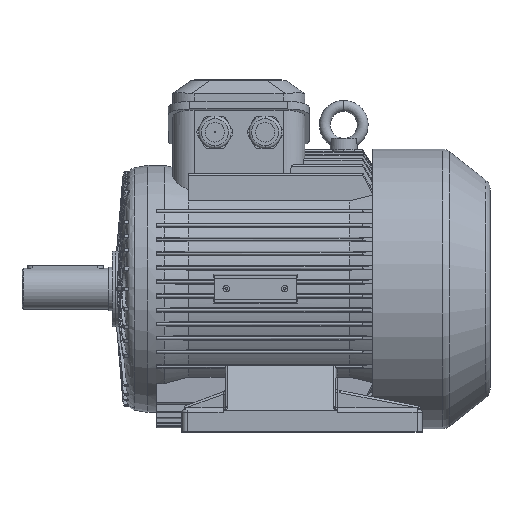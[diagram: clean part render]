
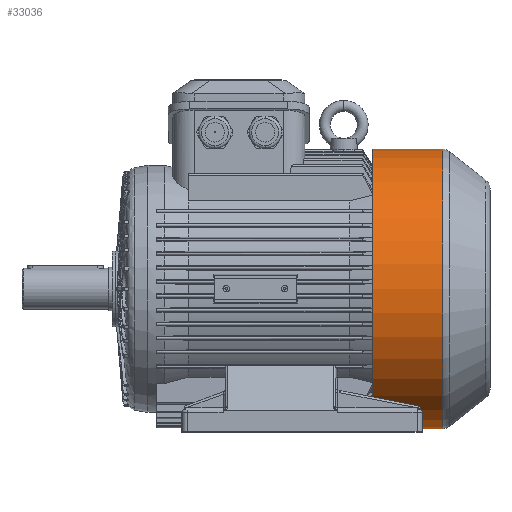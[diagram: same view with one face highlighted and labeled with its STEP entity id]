
A CAD part, top view. The second image highlights one B-rep face of the part: STEP entity #33036.
In plain terms, the highlighted cylindrical face has radius 129 mm (diameter 258 mm), a partial arc.
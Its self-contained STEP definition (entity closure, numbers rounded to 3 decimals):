
#4401 = DIRECTION ( 'NONE',  ( 1., 0., 0. ) ) ;
#5994 = ORIENTED_EDGE ( 'NONE', *, *, #47592, .T. ) ;
#8111 = ORIENTED_EDGE ( 'NONE', *, *, #26385, .F. ) ;
#12716 = VERTEX_POINT ( 'NONE', #16986 ) ;
#12937 = EDGE_CURVE ( 'NONE', #12716, #58784, #22830, .T. ) ;
#13718 = AXIS2_PLACEMENT_3D ( 'NONE', #36809, #48015, #65905 ) ;
#13784 = CARTESIAN_POINT ( 'NONE',  ( 282., -129., 0. ) ) ;
#16986 = CARTESIAN_POINT ( 'NONE',  ( 174., 129., 0. ) ) ;
#19822 = DIRECTION ( 'NONE',  ( 1., 0., 0. ) ) ;
#22830 = CIRCLE ( 'NONE', #40028, 129. ) ;
#25994 = VECTOR ( 'NONE', #4401, 1000. ) ;
#26133 = ORIENTED_EDGE ( 'NONE', *, *, #12937, .T. ) ;
#26385 = EDGE_CURVE ( 'NONE', #12716, #73352, #52983, .T. ) ;
#27312 = VECTOR ( 'NONE', #32046, 1000. ) ;
#32046 = DIRECTION ( 'NONE',  ( 1., 0., 0. ) ) ;
#32749 = ORIENTED_EDGE ( 'NONE', *, *, #42704, .F. ) ;
#33036 = ADVANCED_FACE ( 'NONE', ( #46001 ), #58069, .T. ) ;
#34511 = CARTESIAN_POINT ( 'NONE',  ( 238.239, 0., 0. ) ) ;
#36251 = CARTESIAN_POINT ( 'NONE',  ( 238.239, -129., 0. ) ) ;
#36809 = CARTESIAN_POINT ( 'NONE',  ( 282., 0., 0. ) ) ;
#37769 = DIRECTION ( 'NONE',  ( 0., 1., 0. ) ) ;
#39852 = CIRCLE ( 'NONE', #63938, 129. ) ;
#40028 = AXIS2_PLACEMENT_3D ( 'NONE', #55177, #19822, #37769 ) ;
#42704 = EDGE_CURVE ( 'NONE', #73352, #73299, #39852, .T. ) ;
#43144 = LINE ( 'NONE', #13784, #27312 ) ;
#45970 = DIRECTION ( 'NONE',  ( 1., 0., 0. ) ) ;
#46001 = FACE_OUTER_BOUND ( 'NONE', #60228, .T. ) ;
#46732 = DIRECTION ( 'NONE',  ( 0., 1., 0. ) ) ;
#47592 = EDGE_CURVE ( 'NONE', #58784, #73299, #43144, .T. ) ;
#48015 = DIRECTION ( 'NONE',  ( 1., 0., 0. ) ) ;
#52983 = LINE ( 'NONE', #70662, #25994 ) ;
#55177 = CARTESIAN_POINT ( 'NONE',  ( 174., 0., 0. ) ) ;
#58069 = CYLINDRICAL_SURFACE ( 'NONE', #13718, 129. ) ;
#58784 = VERTEX_POINT ( 'NONE', #71048 ) ;
#60228 = EDGE_LOOP ( 'NONE', ( #26133, #5994, #32749, #8111 ) ) ;
#63938 = AXIS2_PLACEMENT_3D ( 'NONE', #34511, #45970, #46732 ) ;
#65905 = DIRECTION ( 'NONE',  ( 0., 1., 0. ) ) ;
#65963 = CARTESIAN_POINT ( 'NONE',  ( 238.239, 129., 0. ) ) ;
#70662 = CARTESIAN_POINT ( 'NONE',  ( 282., 129., 0. ) ) ;
#71048 = CARTESIAN_POINT ( 'NONE',  ( 174., -129., 0. ) ) ;
#73299 = VERTEX_POINT ( 'NONE', #36251 ) ;
#73352 = VERTEX_POINT ( 'NONE', #65963 ) ;
